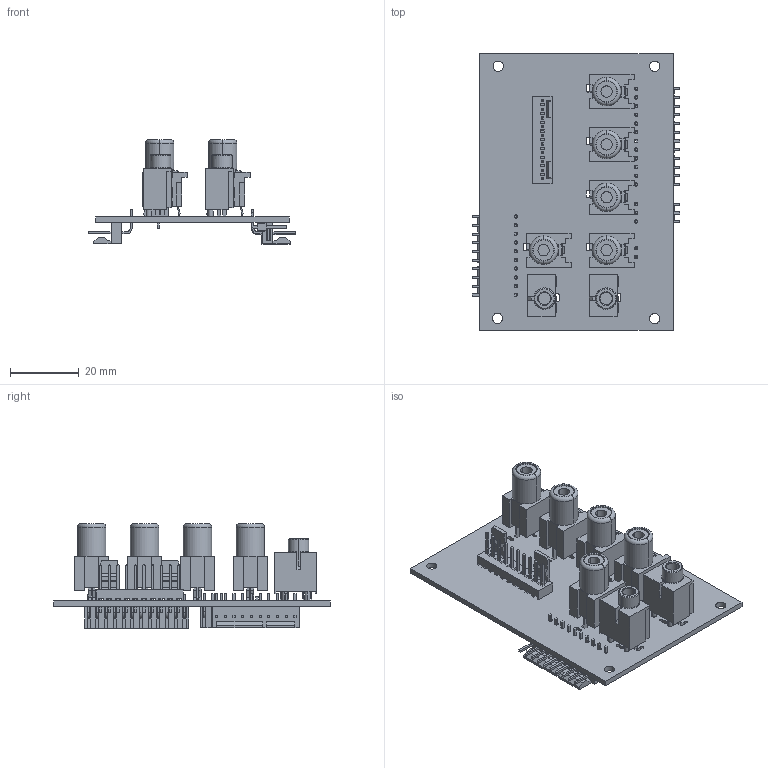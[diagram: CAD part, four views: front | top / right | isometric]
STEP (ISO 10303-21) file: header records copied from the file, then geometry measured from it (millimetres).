
FILE_DESCRIPTION(('KiCad electronic assembly'),'2;1');
FILE_NAME('AV Jack Panel Cliff.step','2023-10-03T17:37:48',('Pcbnew'),( 'Kicad'),'Open CASCADE STEP processor 7.6','KiCad to STEP converter' ,'Unknown');
FILE_SCHEMA(('AUTOMOTIVE_DESIGN { 1 0 10303 214 1 1 1 1 }'));
Length unit declared in the file: millimetre
Products named in the file (16): AV Jack Panel Cliff 1; Molex_KK-254_AE-6410-10A_1x10_P2.54mm_Vertical; SOLID; CUI_DEVICES_RCJ-052; 47257-0001--3DModel-STEP-269445; COMPOUND; 022122104; 022122034; 022122124; PinHeader_1x02_P2.54mm_Horizontal; AV Jack Panel Cliff PCB
Assembly tree (20 placements, depth 3):
  AV Jack Panel Cliff 1
    Molex_KK-254_AE-6410-10A_1x10_P2.54mm_Vertical
      SOLID
    CUI_DEVICES_RCJ-052  x5
      SOLID
    47257-0001--3DModel-STEP-269445  x2
      COMPOUND
    022122104
      COMPOUND
    022122034
      COMPOUND
    022122124
      COMPOUND
    PinHeader_1x02_P2.54mm_Horizontal
      SOLID
    AV Jack Panel Cliff PCB
Bounding box: 60.68 x 80.64 x 30.55 mm (x, y, z)
Volume: 19016.6 mm3; surface area: 22131 mm2
Topology: 23 solids, 23 shells, 1571 faces, 4140 edges, 2781 vertices
Faces by surface type: plane 1257, cylinder 281, torus 17, cone 16
Full cylindrical faces by diameter (mm): 1 x27, 1.19 x10, 3 x4
Entity records: 81556 total; most frequent: CARTESIAN_POINT 14772, DIRECTION 12006, LINE 8527, VECTOR 8527, ORIENTED_EDGE 6244, PCURVE 6244, DEFINITIONAL_REPRESENTATION 6244, EDGE_CURVE 3122
